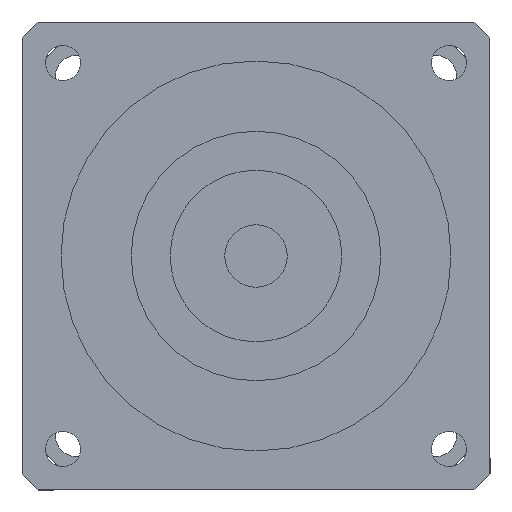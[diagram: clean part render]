
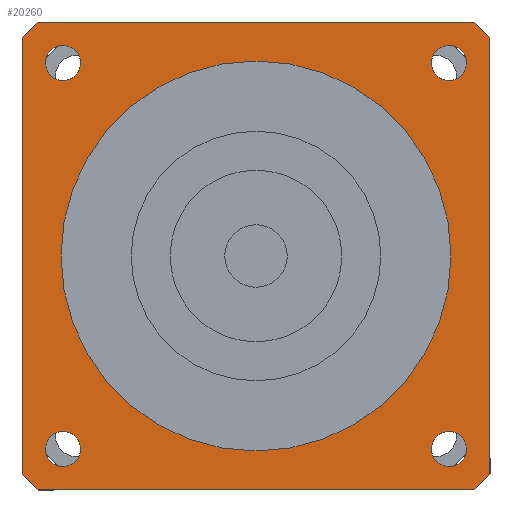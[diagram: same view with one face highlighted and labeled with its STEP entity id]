
A CAD part, left-side view. The second image highlights one B-rep face of the part: STEP entity #20260.
In plain terms, the highlighted planar face has unit normal (-1, 0, 0) as drawn and (0, 0, -1) by its records, which use the part's own axes.
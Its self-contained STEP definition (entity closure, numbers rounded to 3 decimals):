
#11110=CARTESIAN_POINT('',(-30.,27.946,-64.5));
#11120=VERTEX_POINT('',#11110);
#11270=CARTESIAN_POINT('',(-30.,-27.946,-64.5));
#11280=VERTEX_POINT('',#11270);
#11310=CARTESIAN_POINT('',(-30.,30.,-64.5));
#11320=DIRECTION('',(0.,-1.,0.));
#11330=VECTOR('',#11320,1000.);
#11340=LINE('',#11310,#11330);
#11350=EDGE_CURVE('',#11120,#11280,#11340,.T.);
#12930=CARTESIAN_POINT('',(-27.946,-30.,-64.5));
#12940=VERTEX_POINT('',#12930);
#12970=CARTESIAN_POINT('',(0.,0.,
-64.5));
#12980=DIRECTION('',(0.,0.,1.));
#12990=DIRECTION('',(0.,-1.,0.));
#13000=AXIS2_PLACEMENT_3D('',#12970,#12980,#12990);
#13010=CIRCLE('',#13000,41.);
#13020=EDGE_CURVE('',#11280,#12940,#13010,.T.);
#17850=CARTESIAN_POINT('',(-27.946,30.,-64.5));
#17860=VERTEX_POINT('',#17850);
#17910=CARTESIAN_POINT('',(0.,0.,
-64.5));
#17920=DIRECTION('',(0.,0.,1.));
#17930=DIRECTION('',(0.,-1.,0.));
#17940=AXIS2_PLACEMENT_3D('',#17910,#17920,#17930);
#17950=CIRCLE('',#17940,41.);
#17960=EDGE_CURVE('',#17860,#11120,#17950,.T.);
#18100=CARTESIAN_POINT('',(27.946,30.,-64.5));
#18110=VERTEX_POINT('',#18100);
#18160=CARTESIAN_POINT('',(30.,30.,-64.5));
#18170=DIRECTION('',(-1.,0.,0.));
#18180=VECTOR('',#18170,1000.);
#18190=LINE('',#18160,#18180);
#18200=EDGE_CURVE('',#18110,#17860,#18190,.T.);
#18310=CARTESIAN_POINT('',(0.,0.,
-64.5));
#18320=DIRECTION('',(0.,0.,1.));
#18330=DIRECTION('',(0.,-1.,0.));
#18340=AXIS2_PLACEMENT_3D('',#18310,#18320,#18330);
#18350=CIRCLE('',#18340,41.);
#18360=CARTESIAN_POINT('',(30.,27.946,-64.5));
#18370=VERTEX_POINT('',#18360);
#18380=EDGE_CURVE('',#18370,#18110,#18350,.T.);
#18590=CARTESIAN_POINT('',(30.,-27.946,-64.5));
#18600=VERTEX_POINT('',#18590);
#18650=CARTESIAN_POINT('',(30.,-30.,-64.5));
#18660=DIRECTION('',(0.,1.,0.));
#18670=VECTOR('',#18660,1000.);
#18680=LINE('',#18650,#18670);
#18690=EDGE_CURVE('',#18600,#18370,#18680,.T.);
#18830=CARTESIAN_POINT('',(27.946,-30.,-64.5));
#18840=VERTEX_POINT('',#18830);
#18890=CARTESIAN_POINT('',(0.,0.,
-64.5));
#18900=DIRECTION('',(0.,0.,1.));
#18910=DIRECTION('',(0.,-1.,0.));
#18920=AXIS2_PLACEMENT_3D('',#18890,#18900,#18910);
#18930=CIRCLE('',#18920,41.);
#18940=EDGE_CURVE('',#18840,#18600,#18930,.T.);
#19070=CARTESIAN_POINT('',(-30.,-30.,-64.5));
#19080=DIRECTION('',(1.,0.,0.));
#19090=VECTOR('',#19080,1000.);
#19100=LINE('',#19070,#19090);
#19110=EDGE_CURVE('',#12940,#18840,#19100,.T.);
#19160=CARTESIAN_POINT('',(-30.,30.,-64.5));
#19170=DIRECTION('',(0.,0.,1.));
#19180=DIRECTION('',(-1.,0.,0.));
#19190=AXIS2_PLACEMENT_3D('',#19160,#19170,#19180);
#19200=PLANE('',#19190);
#19210=CARTESIAN_POINT('',(24.749,-24.749,-64.5));
#19220=DIRECTION('',(0.,0.,-1.));
#19230=DIRECTION('',(1.,0.,0.));
#19240=AXIS2_PLACEMENT_3D('',#19210,#19220,#19230);
#19250=CIRCLE('',#19240,2.25);
#19260=CARTESIAN_POINT('',(26.999,-24.749,-64.5));
#19270=VERTEX_POINT('',#19260);
#19280=CARTESIAN_POINT('',(24.749,-26.999,-64.5));
#19290=VERTEX_POINT('',#19280);
#19300=EDGE_CURVE('',#19270,#19290,#19250,.T.);
#19310=ORIENTED_EDGE('',*,*,#19300,.F.);
#19320=CARTESIAN_POINT('',(24.749,-22.499,-64.5));
#19330=VERTEX_POINT('',#19320);
#19340=EDGE_CURVE('',#19290,#19330,#19250,.T.);
#19350=ORIENTED_EDGE('',*,*,#19340,.F.);
#19360=EDGE_CURVE('',#19330,#19270,#19250,.T.);
#19370=ORIENTED_EDGE('',*,*,#19360,.F.);
#19380=EDGE_LOOP('',(#19370,#19350,#19310));
#19390=FACE_BOUND('',#19380,.T.);
#19400=CARTESIAN_POINT('',(24.749,24.749,-64.5));
#19410=DIRECTION('',(0.,0.,-1.));
#19420=DIRECTION('',(0.,1.,0.));
#19430=AXIS2_PLACEMENT_3D('',#19400,#19410,#19420);
#19440=CIRCLE('',#19430,2.25);
#19450=CARTESIAN_POINT('',(24.749,26.999,-64.5));
#19460=VERTEX_POINT('',#19450);
#19470=CARTESIAN_POINT('',(26.999,24.749,-64.5));
#19480=VERTEX_POINT('',#19470);
#19490=EDGE_CURVE('',#19460,#19480,#19440,.T.);
#19500=ORIENTED_EDGE('',*,*,#19490,.F.);
#19510=CARTESIAN_POINT('',(22.499,24.749,-64.5));
#19520=VERTEX_POINT('',#19510);
#19530=EDGE_CURVE('',#19480,#19520,#19440,.T.);
#19540=ORIENTED_EDGE('',*,*,#19530,.F.);
#19550=EDGE_CURVE('',#19520,#19460,#19440,.T.);
#19560=ORIENTED_EDGE('',*,*,#19550,.F.);
#19570=EDGE_LOOP('',(#19560,#19540,#19500));
#19580=FACE_BOUND('',#19570,.T.);
#19590=CARTESIAN_POINT('',(-24.749,24.749,-64.5));
#19600=DIRECTION('',(0.,0.,-1.));
#19610=DIRECTION('',(-1.,0.,0.));
#19620=AXIS2_PLACEMENT_3D('',#19590,#19600,#19610);
#19630=CIRCLE('',#19620,2.25);
#19640=CARTESIAN_POINT('',(-26.999,24.749,-64.5));
#19650=VERTEX_POINT('',#19640);
#19660=CARTESIAN_POINT('',(-24.749,26.999,-64.5));
#19670=VERTEX_POINT('',#19660);
#19680=EDGE_CURVE('',#19650,#19670,#19630,.T.);
#19690=ORIENTED_EDGE('',*,*,#19680,.F.);
#19700=CARTESIAN_POINT('',(-24.749,22.499,-64.5));
#19710=VERTEX_POINT('',#19700);
#19720=EDGE_CURVE('',#19670,#19710,#19630,.T.);
#19730=ORIENTED_EDGE('',*,*,#19720,.F.);
#19740=EDGE_CURVE('',#19710,#19650,#19630,.T.);
#19750=ORIENTED_EDGE('',*,*,#19740,.F.);
#19760=EDGE_LOOP('',(#19750,#19730,#19690));
#19770=FACE_BOUND('',#19760,.T.);
#19780=CARTESIAN_POINT('',(-24.749,-24.749,-64.5));
#19790=DIRECTION('',(0.,0.,-1.));
#19800=DIRECTION('',(0.,-1.,0.));
#19810=AXIS2_PLACEMENT_3D('',#19780,#19790,#19800);
#19820=CIRCLE('',#19810,2.25);
#19830=CARTESIAN_POINT('',(-24.749,-26.999,-64.5));
#19840=VERTEX_POINT('',#19830);
#19850=CARTESIAN_POINT('',(-26.999,-24.749,-64.5));
#19860=VERTEX_POINT('',#19850);
#19870=EDGE_CURVE('',#19840,#19860,#19820,.T.);
#19880=ORIENTED_EDGE('',*,*,#19870,.F.);
#19890=CARTESIAN_POINT('',(-22.499,-24.749,-64.5));
#19900=VERTEX_POINT('',#19890);
#19910=EDGE_CURVE('',#19860,#19900,#19820,.T.);
#19920=ORIENTED_EDGE('',*,*,#19910,.F.);
#19930=EDGE_CURVE('',#19900,#19840,#19820,.T.);
#19940=ORIENTED_EDGE('',*,*,#19930,.F.);
#19950=EDGE_LOOP('',(#19940,#19920,#19880));
#19960=FACE_BOUND('',#19950,.T.);
#19970=ORIENTED_EDGE('',*,*,#13020,.F.);
#19980=ORIENTED_EDGE('',*,*,#19110,.F.);
#19990=ORIENTED_EDGE('',*,*,#18940,.F.);
#20000=ORIENTED_EDGE('',*,*,#18690,.F.);
#20010=ORIENTED_EDGE('',*,*,#18380,.F.);
#20020=ORIENTED_EDGE('',*,*,#18200,.F.);
#20030=ORIENTED_EDGE('',*,*,#17960,.F.);
#20040=ORIENTED_EDGE('',*,*,#11350,.F.);
#20050=EDGE_LOOP('',(#20040,#20030,#20020,#20010,#20000,#19990,#19980,
#19970));
#20060=FACE_OUTER_BOUND('',#20050,.T.);
#20070=CARTESIAN_POINT('',(0.,0.,
-64.5));
#20080=DIRECTION('',(0.,0.,1.));
#20090=DIRECTION('',(0.,-1.,0.));
#20100=AXIS2_PLACEMENT_3D('',#20070,#20080,#20090);
#20110=CIRCLE('',#20100,25.);
#20120=CARTESIAN_POINT('',(25.,0.,-64.5));
#20130=VERTEX_POINT('',#20120);
#20140=CARTESIAN_POINT('',(-25.,0.,-64.5));
#20150=VERTEX_POINT('',#20140);
#20160=EDGE_CURVE('',#20130,#20150,#20110,.T.);
#20170=ORIENTED_EDGE('',*,*,#20160,.T.);
#20180=CARTESIAN_POINT('',(0.,-25.,-64.5));
#20190=VERTEX_POINT('',#20180);
#20200=EDGE_CURVE('',#20190,#20130,#20110,.T.);
#20210=ORIENTED_EDGE('',*,*,#20200,.T.);
#20220=EDGE_CURVE('',#20150,#20190,#20110,.T.);
#20230=ORIENTED_EDGE('',*,*,#20220,.T.);
#20240=EDGE_LOOP('',(#20230,#20210,#20170));
#20250=FACE_BOUND('',#20240,.T.);
#20260=ADVANCED_FACE('',(#19390,#19580,#19770,#19960,#20060,#20250),
#19200,.F.);
